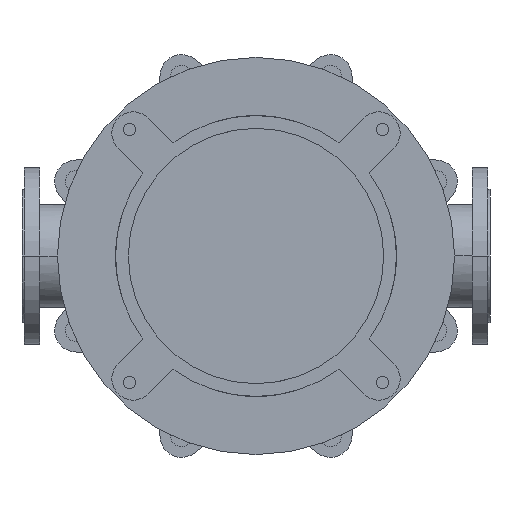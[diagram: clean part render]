
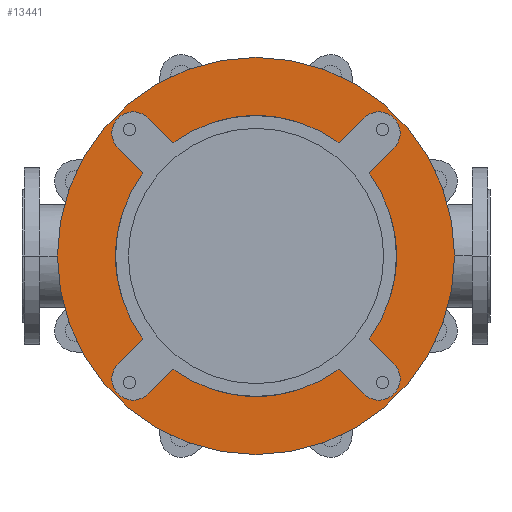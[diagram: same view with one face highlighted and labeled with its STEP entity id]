
A CAD part, front view. The second image highlights one B-rep face of the part: STEP entity #13441.
In plain terms, the highlighted planar face has unit normal (0, -1, 0).
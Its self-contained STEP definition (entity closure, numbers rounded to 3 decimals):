
#3035=CARTESIAN_POINT('',(0.,-25.,0.));
#3036=DIRECTION('',(0.,1.,0.));
#3037=DIRECTION('',(0.592,0.,-0.806));
#3038=AXIS2_PLACEMENT_3D('',#3035,#3036,#3037);
#3053=CARTESIAN_POINT('',(0.,-25.,0.));
#3054=DIRECTION('',(0.,1.,0.));
#3055=DIRECTION('',(0.806,0.,0.592));
#3056=AXIS2_PLACEMENT_3D('',#3053,#3054,#3055);
#3080=CARTESIAN_POINT('',(0.,-25.,0.));
#3081=DIRECTION('',(0.,1.,0.));
#3082=DIRECTION('',(-0.806,0.,-0.592));
#3083=AXIS2_PLACEMENT_3D('',#3080,#3081,#3082);
#3089=CARTESIAN_POINT('',(0.,-25.,0.));
#3090=DIRECTION('',(0.,1.,0.));
#3091=DIRECTION('',(-0.592,0.,0.806));
#3092=AXIS2_PLACEMENT_3D('',#3089,#3090,#3091);
#3267=CARTESIAN_POINT('',(0.,-25.,0.));
#3268=DIRECTION('',(0.,-1.,0.));
#3269=DIRECTION('',(-1.,0.,0.));
#3270=AXIS2_PLACEMENT_3D('',#3267,#3268,#3269);
#3272=CARTESIAN_POINT('',(0.,-25.,0.));
#3273=DIRECTION('',(0.,1.,0.));
#3274=DIRECTION('',(-1.,0.,0.));
#3275=AXIS2_PLACEMENT_3D('',#3272,#3273,#3274);
#3277=CARTESIAN_POINT('',(-173.241,-25.,173.241));
#3278=DIRECTION('',(0.,-1.,0.));
#3279=DIRECTION('',(0.707,0.,0.707));
#3280=AXIS2_PLACEMENT_3D('',#3277,#3278,#3279);
#3282=DIRECTION('',(0.707,0.,-0.707));
#3283=VECTOR('',#3282,49.286);
#3284=CARTESIAN_POINT('',(-194.454,-25.,152.028));
#3285=LINE('',#3284,#3283);
#3286=DIRECTION('',(-0.707,0.,-0.707));
#3287=VECTOR('',#3286,49.286);
#3288=CARTESIAN_POINT('',(-159.604,-25.,-117.178));
#3289=LINE('',#3288,#3287);
#3290=CARTESIAN_POINT('',(-173.241,-25.,-173.241));
#3291=DIRECTION('',(0.,-1.,0.));
#3292=DIRECTION('',(-0.707,0.,0.707));
#3293=AXIS2_PLACEMENT_3D('',#3290,#3291,#3292);
#3295=DIRECTION('',(0.707,0.,0.707));
#3296=VECTOR('',#3295,49.286);
#3297=CARTESIAN_POINT('',(-152.028,-25.,-194.454));
#3298=LINE('',#3297,#3296);
#3299=DIRECTION('',(0.707,0.,-0.707));
#3300=VECTOR('',#3299,49.286);
#3301=CARTESIAN_POINT('',(117.178,-25.,-159.604));
#3302=LINE('',#3301,#3300);
#3303=CARTESIAN_POINT('',(173.241,-25.,-173.241));
#3304=DIRECTION('',(0.,-1.,0.));
#3305=DIRECTION('',(-0.707,0.,-0.707));
#3306=AXIS2_PLACEMENT_3D('',#3303,#3304,#3305);
#3308=DIRECTION('',(-0.707,0.,0.707));
#3309=VECTOR('',#3308,49.286);
#3310=CARTESIAN_POINT('',(194.454,-25.,-152.028));
#3311=LINE('',#3310,#3309);
#3312=DIRECTION('',(0.707,0.,0.707));
#3313=VECTOR('',#3312,49.286);
#3314=CARTESIAN_POINT('',(159.604,-25.,117.178));
#3315=LINE('',#3314,#3313);
#3316=CARTESIAN_POINT('',(173.241,-25.,173.241));
#3317=DIRECTION('',(0.,-1.,0.));
#3318=DIRECTION('',(0.707,0.,-0.707));
#3319=AXIS2_PLACEMENT_3D('',#3316,#3317,#3318);
#3321=DIRECTION('',(-0.707,0.,-0.707));
#3322=VECTOR('',#3321,49.286);
#3323=CARTESIAN_POINT('',(152.028,-25.,194.454));
#3324=LINE('',#3323,#3322);
#3325=DIRECTION('',(-0.707,0.,0.707));
#3326=VECTOR('',#3325,49.286);
#3327=CARTESIAN_POINT('',(-117.178,-25.,159.604));
#3328=LINE('',#3327,#3326);
#8409=CARTESIAN_POINT('',(-280.,-25.,0.));
#8410=CARTESIAN_POINT('',(280.,-25.,0.));
#8411=VERTEX_POINT('',#8409);
#8412=VERTEX_POINT('',#8410);
#8433=CARTESIAN_POINT('',(-194.454,-25.,-152.028));
#8434=CARTESIAN_POINT('',(-152.028,-25.,-194.454));
#8435=VERTEX_POINT('',#8433);
#8436=VERTEX_POINT('',#8434);
#8437=CARTESIAN_POINT('',(-117.178,-25.,-159.604));
#8438=VERTEX_POINT('',#8437);
#8439=CARTESIAN_POINT('',(-159.604,-25.,-117.178));
#8440=VERTEX_POINT('',#8439);
#8449=CARTESIAN_POINT('',(152.028,-25.,-194.454));
#8450=CARTESIAN_POINT('',(194.454,-25.,-152.028));
#8451=VERTEX_POINT('',#8449);
#8452=VERTEX_POINT('',#8450);
#8453=CARTESIAN_POINT('',(159.604,-25.,-117.178));
#8454=VERTEX_POINT('',#8453);
#8455=CARTESIAN_POINT('',(117.178,-25.,-159.604));
#8456=VERTEX_POINT('',#8455);
#8465=CARTESIAN_POINT('',(194.454,-25.,152.028));
#8466=CARTESIAN_POINT('',(152.028,-25.,194.454));
#8467=VERTEX_POINT('',#8465);
#8468=VERTEX_POINT('',#8466);
#8469=CARTESIAN_POINT('',(117.178,-25.,159.604));
#8470=VERTEX_POINT('',#8469);
#8471=CARTESIAN_POINT('',(159.604,-25.,117.178));
#8472=VERTEX_POINT('',#8471);
#8481=CARTESIAN_POINT('',(-152.028,-25.,194.454));
#8482=CARTESIAN_POINT('',(-194.454,-25.,152.028));
#8483=VERTEX_POINT('',#8481);
#8484=VERTEX_POINT('',#8482);
#8485=CARTESIAN_POINT('',(-159.604,-25.,117.178));
#8486=VERTEX_POINT('',#8485);
#8487=CARTESIAN_POINT('',(-117.178,-25.,159.604));
#8488=VERTEX_POINT('',#8487);
#13401=CARTESIAN_POINT('',(0.,-25.,0.));
#13402=DIRECTION('',(0.,-1.,0.));
#13403=DIRECTION('',(-1.,0.,0.));
#13404=AXIS2_PLACEMENT_3D('',#13401,#13402,#13403);
#13405=PLANE('',#13404);
#13407=ORIENTED_EDGE('',*,*,#13406,.F.);
#13409=ORIENTED_EDGE('',*,*,#13408,.T.);
#13410=EDGE_LOOP('',(#13407,#13409));
#13411=FACE_OUTER_BOUND('',#13410,.F.);
#13413=ORIENTED_EDGE('',*,*,#13412,.T.);
#13415=ORIENTED_EDGE('',*,*,#13414,.T.);
#13416=ORIENTED_EDGE('',*,*,#13354,.F.);
#13418=ORIENTED_EDGE('',*,*,#13417,.T.);
#13420=ORIENTED_EDGE('',*,*,#13419,.T.);
#13422=ORIENTED_EDGE('',*,*,#13421,.T.);
#13423=ORIENTED_EDGE('',*,*,#13307,.F.);
#13424=ORIENTED_EDGE('',*,*,#13391,.T.);
#13426=ORIENTED_EDGE('',*,*,#13425,.T.);
#13428=ORIENTED_EDGE('',*,*,#13427,.T.);
#13429=ORIENTED_EDGE('',*,*,#13328,.F.);
#13431=ORIENTED_EDGE('',*,*,#13430,.T.);
#13433=ORIENTED_EDGE('',*,*,#13432,.T.);
#13435=ORIENTED_EDGE('',*,*,#13434,.T.);
#13436=ORIENTED_EDGE('',*,*,#13372,.F.);
#13438=ORIENTED_EDGE('',*,*,#13437,.T.);
#13439=EDGE_LOOP('',(#13413,#13415,#13416,#13418,#13420,#13422,#13423,#13424,
#13426,#13428,#13429,#13431,#13433,#13435,#13436,#13438));
#13440=FACE_BOUND('',#13439,.F.);
#13441=ADVANCED_FACE('',(#13411,#13440),#13405,.T.);
#3039=CIRCLE('',#3038,198.);
#3057=CIRCLE('',#3056,198.);
#3084=CIRCLE('',#3083,198.);
#3093=CIRCLE('',#3092,198.);
#3271=CIRCLE('',#3270,280.);
#3276=CIRCLE('',#3275,280.);
#3281=CIRCLE('',#3280,30.);
#3294=CIRCLE('',#3293,30.);
#3307=CIRCLE('',#3306,30.);
#3320=CIRCLE('',#3319,30.);
#13307=EDGE_CURVE('',#8456,#8438,#3039,.T.);
#13328=EDGE_CURVE('',#8472,#8454,#3057,.T.);
#13354=EDGE_CURVE('',#8440,#8486,#3084,.T.);
#13372=EDGE_CURVE('',#8488,#8470,#3093,.T.);
#13391=EDGE_CURVE('',#8456,#8451,#3302,.T.);
#13406=EDGE_CURVE('',#8411,#8412,#3271,.T.);
#13408=EDGE_CURVE('',#8411,#8412,#3276,.T.);
#13412=EDGE_CURVE('',#8483,#8484,#3281,.T.);
#13414=EDGE_CURVE('',#8484,#8486,#3285,.T.);
#13417=EDGE_CURVE('',#8440,#8435,#3289,.T.);
#13419=EDGE_CURVE('',#8435,#8436,#3294,.T.);
#13421=EDGE_CURVE('',#8436,#8438,#3298,.T.);
#13425=EDGE_CURVE('',#8451,#8452,#3307,.T.);
#13427=EDGE_CURVE('',#8452,#8454,#3311,.T.);
#13430=EDGE_CURVE('',#8472,#8467,#3315,.T.);
#13432=EDGE_CURVE('',#8467,#8468,#3320,.T.);
#13434=EDGE_CURVE('',#8468,#8470,#3324,.T.);
#13437=EDGE_CURVE('',#8488,#8483,#3328,.T.);
